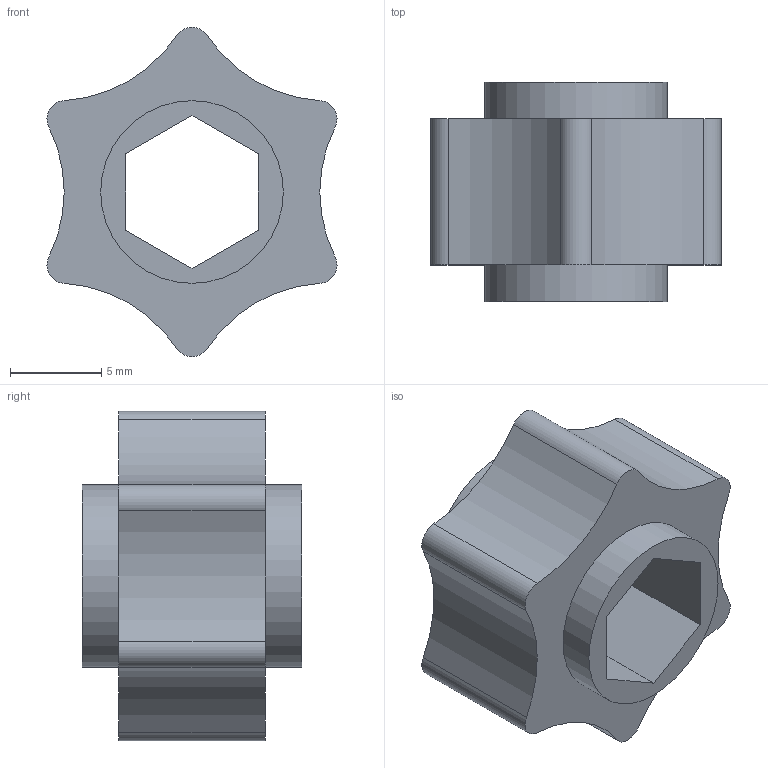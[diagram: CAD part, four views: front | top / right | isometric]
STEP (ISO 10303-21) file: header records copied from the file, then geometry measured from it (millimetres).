
FILE_DESCRIPTION(/* description */ ('STEP AP242 Edition 2','CAx-IF Rec.Pracs.---Representation and Presentation of Product Manufacturing Information (PMI)---4.0---2014-10-13','CAx-IF Rec.Pracs.---3D Tessellated Geometry---0.4---2014-09-14','2;1','CAx-IF Rec.Pracs.---User Defined Attributes---1.5---2016-08-15'),/* implementation_level */ '2;1');
FILE_NAME(/* name */ '0ef64ff8-975a-4709-8c14-f1910eef81d2',/* time_stamp */ '2026-09-21T11:10:11Z',/* author */ (''),/* organization */ (''),/* preprocessor_version */ 'ST-DEVELOPER v20',/* originating_system */ 'ONSHAPE BY PTC INC, 1.221',/* authorisation */ ' ');
FILE_SCHEMA (('AP242_MANAGED_MODEL_BASED_3D_ENGINEERING_MIM_LF { 1 0 10303 442 3 1 4 }'));
Length unit declared in the file: metre
Products named in the file (1): v2胶轮内芯
Bounding box: 15.88 x 12 x 18.03 mm (x, y, z)
Volume: 1283 mm3; surface area: 1163.8 mm2
Topology: 1 solids, 1 shells, 24 faces, 60 edges, 40 vertices
Faces by surface type: cylinder 14, plane 10
Full cylindrical faces by diameter (mm): 10 x2
Entity records: 748 total; most frequent: DIRECTION 136, CARTESIAN_POINT 123, ORIENTED_EDGE 116, EDGE_CURVE 58, AXIS2_PLACEMENT_3D 53, VERTEX_POINT 40, LINE 30, VECTOR 30
